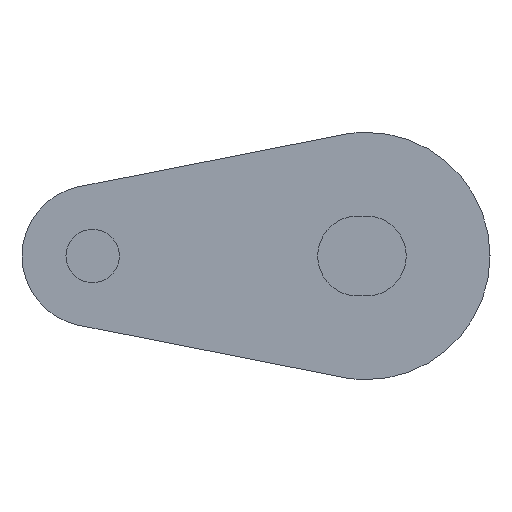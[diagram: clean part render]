
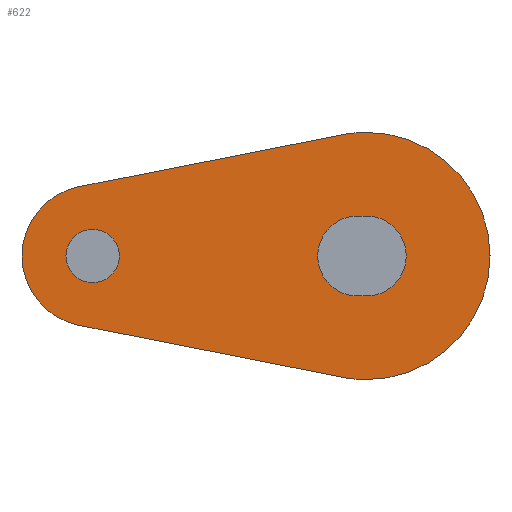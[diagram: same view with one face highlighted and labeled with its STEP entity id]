
A CAD part, left-side view. The second image highlights one B-rep face of the part: STEP entity #622.
In plain terms, the highlighted planar face has unit normal (-1, 0, 0).
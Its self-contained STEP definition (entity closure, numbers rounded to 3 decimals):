
#22 = FACE_OUTER_BOUND ( 'NONE', #141, .T. ) ;
#48 = ORIENTED_EDGE ( 'NONE', *, *, #427, .T. ) ;
#53 = ORIENTED_EDGE ( 'NONE', *, *, #532, .T. ) ;
#54 = ORIENTED_EDGE ( 'NONE', *, *, #442, .T. ) ;
#55 = ORIENTED_EDGE ( 'NONE', *, *, #568, .T. ) ;
#141 = EDGE_LOOP ( 'NONE', ( #142, #154, #153, #152, #156, #149 ) ) ;
#142 = ORIENTED_EDGE ( 'NONE', *, *, #509, .F. ) ;
#143 = ORIENTED_EDGE ( 'NONE', *, *, #569, .T. ) ;
#144 = ORIENTED_EDGE ( 'NONE', *, *, #505, .T. ) ;
#145 = EDGE_LOOP ( 'NONE', ( #144, #143 ) ) ;
#149 = ORIENTED_EDGE ( 'NONE', *, *, #506, .F. ) ;
#152 = ORIENTED_EDGE ( 'NONE', *, *, #502, .F. ) ;
#153 = ORIENTED_EDGE ( 'NONE', *, *, #548, .F. ) ;
#154 = ORIENTED_EDGE ( 'NONE', *, *, #570, .F. ) ;
#156 = ORIENTED_EDGE ( 'NONE', *, *, #546, .F. ) ;
#166 = EDGE_LOOP ( 'NONE', ( #48, #53, #54, #55 ) ) ;
#169 = VERTEX_POINT ( 'NONE', #184 ) ;
#170 = VERTEX_POINT ( 'NONE', #226 ) ;
#175 = CARTESIAN_POINT ( 'NONE',  ( -257.5, 0.5, -2.26 ) ) ;
#178 = CARTESIAN_POINT ( 'NONE',  ( -257.5, 0., 7. ) ) ;
#184 = CARTESIAN_POINT ( 'NONE',  ( -257.5, 1.355, 6.868 ) ) ;
#187 = VERTEX_POINT ( 'NONE', #250 ) ;
#192 = CARTESIAN_POINT ( 'NONE',  ( -257.5, 15.5, -1.51 ) ) ;
#210 = CARTESIAN_POINT ( 'NONE',  ( -257.5, 0., -2.26 ) ) ;
#211 = CARTESIAN_POINT ( 'NONE',  ( -257.5, 1.355, -6.868 ) ) ;
#217 = VERTEX_POINT ( 'NONE', #210 ) ;
#218 = VERTEX_POINT ( 'NONE', #211 ) ;
#226 = CARTESIAN_POINT ( 'NONE',  ( -257.5, 16.274, 3.924 ) ) ;
#227 = VERTEX_POINT ( 'NONE', #178 ) ;
#233 = CARTESIAN_POINT ( 'NONE',  ( -257.5, 16.274, -3.924 ) ) ;
#239 = VERTEX_POINT ( 'NONE', #175 ) ;
#240 = VERTEX_POINT ( 'NONE', #266 ) ;
#243 = CARTESIAN_POINT ( 'NONE',  ( -257.5, 0.5, 2.26 ) ) ;
#247 = CARTESIAN_POINT ( 'NONE',  ( -257.5, 0., -7. ) ) ;
#250 = CARTESIAN_POINT ( 'NONE',  ( -257.5, 15.5, 1.51 ) ) ;
#254 = VERTEX_POINT ( 'NONE', #247 ) ;
#258 = VERTEX_POINT ( 'NONE', #243 ) ;
#264 = VERTEX_POINT ( 'NONE', #233 ) ;
#266 = CARTESIAN_POINT ( 'NONE',  ( -257.5, 0., 2.26 ) ) ;
#269 = VERTEX_POINT ( 'NONE', #192 ) ;
#270 = AXIS2_PLACEMENT_3D ( 'NONE', #435, #498, #521 ) ;
#285 = CARTESIAN_POINT ( 'NONE',  ( -257.5, 0., 0. ) ) ;
#290 = DIRECTION ( 'NONE',  ( 0., 0., -1. ) ) ;
#299 = DIRECTION ( 'NONE',  ( 1., 0., 0. ) ) ;
#300 = CARTESIAN_POINT ( 'NONE',  ( -257.5, 15.5, 0. ) ) ;
#302 = DIRECTION ( 'NONE',  ( 0., -0.981, 0.194 ) ) ;
#305 = DIRECTION ( 'NONE',  ( 0., 0., -1. ) ) ;
#306 = DIRECTION ( 'NONE',  ( 1., 0., 0. ) ) ;
#307 = CARTESIAN_POINT ( 'NONE',  ( -257.5, 15.5, 0. ) ) ;
#309 = DIRECTION ( 'NONE',  ( 0., 0., -1. ) ) ;
#310 = DIRECTION ( 'NONE',  ( 1., 0., 0. ) ) ;
#311 = CARTESIAN_POINT ( 'NONE',  ( -257.5, 16.274, 3.924 ) ) ;
#339 = DIRECTION ( 'NONE',  ( 1., 0., 0. ) ) ;
#340 = DIRECTION ( 'NONE',  ( 0., 0., -1. ) ) ;
#347 = CARTESIAN_POINT ( 'NONE',  ( -257.5, 0., 0. ) ) ;
#349 = DIRECTION ( 'NONE',  ( 1., 0., 0. ) ) ;
#350 = DIRECTION ( 'NONE',  ( 0., 0., -1. ) ) ;
#356 = AXIS2_PLACEMENT_3D ( 'NONE', #300, #299, #290 ) ;
#360 = CARTESIAN_POINT ( 'NONE',  ( -257.5, 0.5, 0. ) ) ;
#399 = AXIS2_PLACEMENT_3D ( 'NONE', #775, #790, #785 ) ;
#412 = AXIS2_PLACEMENT_3D ( 'NONE', #285, #310, #309 ) ;
#415 = AXIS2_PLACEMENT_3D ( 'NONE', #360, #349, #350 ) ;
#427 = EDGE_CURVE ( 'NONE', #239, #258, #977, .T. ) ;
#435 = CARTESIAN_POINT ( 'NONE',  ( -257.5, 15.5, 0. ) ) ;
#437 = DIRECTION ( 'NONE',  ( 0., 1., 0. ) ) ;
#442 = EDGE_CURVE ( 'NONE', #240, #217, #970, .T. ) ;
#455 = CARTESIAN_POINT ( 'NONE',  ( -257.5, 0.5, -2.26 ) ) ;
#463 = DIRECTION ( 'NONE',  ( 1., 0., 0. ) ) ;
#465 = DIRECTION ( 'NONE',  ( 0., 0., -1. ) ) ;
#472 = CARTESIAN_POINT ( 'NONE',  ( -257.5, 0., 0. ) ) ;
#477 = CARTESIAN_POINT ( 'NONE',  ( -257.5, 0.5, 2.26 ) ) ;
#478 = DIRECTION ( 'NONE',  ( 0., -1., 0. ) ) ;
#480 = CARTESIAN_POINT ( 'NONE',  ( -257.5, 0., 0. ) ) ;
#493 = DIRECTION ( 'NONE',  ( 1., 0., 0. ) ) ;
#494 = DIRECTION ( 'NONE',  ( 0., 0., -1. ) ) ;
#498 = DIRECTION ( 'NONE',  ( 1., 0., 0. ) ) ;
#499 = CARTESIAN_POINT ( 'NONE',  ( -257.5, 1.355, -6.868 ) ) ;
#500 = DIRECTION ( 'NONE',  ( 0., 0.981, 0.194 ) ) ;
#502 = EDGE_CURVE ( 'NONE', #227, #254, #943, .T. ) ;
#505 = EDGE_CURVE ( 'NONE', #269, #187, #936, .T. ) ;
#506 = EDGE_CURVE ( 'NONE', #170, #169, #937, .T. ) ;
#509 = EDGE_CURVE ( 'NONE', #264, #170, #938, .T. ) ;
#521 = DIRECTION ( 'NONE',  ( 0., 0., -1. ) ) ;
#532 = EDGE_CURVE ( 'NONE', #258, #240, #888, .T. ) ;
#539 = AXIS2_PLACEMENT_3D ( 'NONE', #347, #339, #340 ) ;
#546 = EDGE_CURVE ( 'NONE', #169, #227, #871, .T. ) ;
#548 = EDGE_CURVE ( 'NONE', #254, #218, #868, .T. ) ;
#549 = AXIS2_PLACEMENT_3D ( 'NONE', #480, #463, #465 ) ;
#568 = EDGE_CURVE ( 'NONE', #217, #239, #883, .T. ) ;
#569 = EDGE_CURVE ( 'NONE', #187, #269, #893, .T. ) ;
#570 = EDGE_CURVE ( 'NONE', #218, #264, #884, .T. ) ;
#571 = AXIS2_PLACEMENT_3D ( 'NONE', #307, #306, #305 ) ;
#587 = AXIS2_PLACEMENT_3D ( 'NONE', #472, #493, #494 ) ;
#622 = ADVANCED_FACE ( 'NONE', ( #949, #946, #22 ), #821, .T. ) ;
#775 = CARTESIAN_POINT ( 'NONE',  ( -257.5, 15.5, 0. ) ) ;
#785 = DIRECTION ( 'NONE',  ( 0., 0., -1. ) ) ;
#790 = DIRECTION ( 'NONE',  ( -1., 0., 0. ) ) ;
#821 = PLANE ( 'NONE',  #399 ) ;
#868 = CIRCLE ( 'NONE', #587, 7. ) ;
#871 = CIRCLE ( 'NONE', #549, 7. ) ;
#875 = VECTOR ( 'NONE', #500, 1000. ) ;
#883 = LINE ( 'NONE', #455, #894 ) ;
#884 = LINE ( 'NONE', #499, #875 ) ;
#888 = LINE ( 'NONE', #477, #889 ) ;
#889 = VECTOR ( 'NONE', #478, 1000. ) ;
#893 = CIRCLE ( 'NONE', #270, 1.51 ) ;
#894 = VECTOR ( 'NONE', #437, 1000. ) ;
#936 = CIRCLE ( 'NONE', #571, 1.51 ) ;
#937 = LINE ( 'NONE', #311, #947 ) ;
#938 = CIRCLE ( 'NONE', #356, 4. ) ;
#943 = CIRCLE ( 'NONE', #412, 7. ) ;
#946 = FACE_BOUND ( 'NONE', #145, .T. ) ;
#947 = VECTOR ( 'NONE', #302, 1000. ) ;
#949 = FACE_BOUND ( 'NONE', #166, .T. ) ;
#970 = CIRCLE ( 'NONE', #539, 2.26 ) ;
#977 = CIRCLE ( 'NONE', #415, 2.26 ) ;
